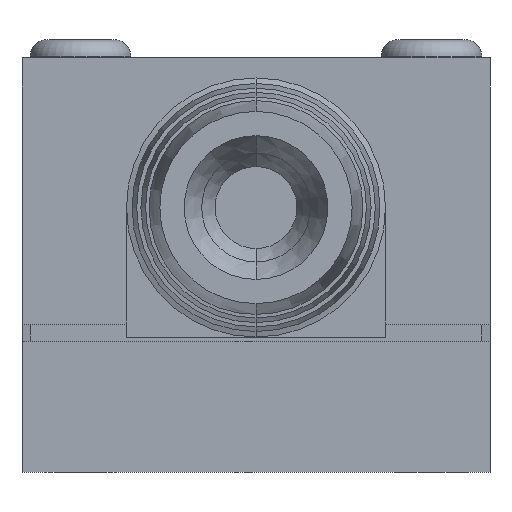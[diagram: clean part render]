
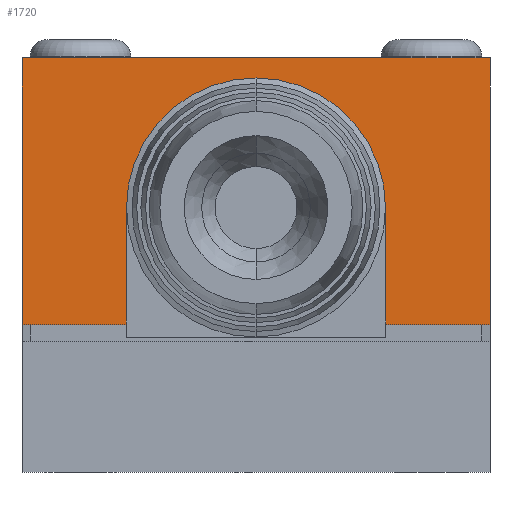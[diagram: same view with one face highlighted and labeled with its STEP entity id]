
A CAD part, front view. The second image highlights one B-rep face of the part: STEP entity #1720.
In plain terms, the highlighted planar face has unit normal (0, -1, 0).
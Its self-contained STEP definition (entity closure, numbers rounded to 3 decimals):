
#565 = AXIS2_PLACEMENT_3D ( 'NONE', #4049, #4050, #4051 ) ;
#858 = ORIENTED_EDGE ( 'NONE', *, *, #1582, .F. ) ;
#1030 = ORIENTED_EDGE ( 'NONE', *, *, #1706, .F. ) ;
#1032 = ORIENTED_EDGE ( 'NONE', *, *, #1707, .T. ) ;
#1033 = ORIENTED_EDGE ( 'NONE', *, *, #1710, .T. ) ;
#1034 = ORIENTED_EDGE ( 'NONE', *, *, #1708, .F. ) ;
#1038 = ORIENTED_EDGE ( 'NONE', *, *, #1709, .T. ) ;
#1047 = VERTEX_POINT ( 'NONE', #3598 ) ;
#1048 = VERTEX_POINT ( 'NONE', #3599 ) ;
#1201 = EDGE_LOOP ( 'NONE', ( #1038, #1033, #1034, #1032 ) ) ;
#1202 = EDGE_LOOP ( 'NONE', ( #1030, #858 ) ) ;
#1582 = EDGE_CURVE ( 'NONE', #1048, #1047, #2111, .T. ) ;
#1706 = EDGE_CURVE ( 'NONE', #1047, #1048, #2167, .T. ) ;
#1707 = EDGE_CURVE ( 'NONE', #3430, #3427, #4425, .T. ) ;
#1708 = EDGE_CURVE ( 'NONE', #3430, #3429, #4428, .T. ) ;
#1709 = EDGE_CURVE ( 'NONE', #3427, #3428, #4431, .T. ) ;
#1710 = EDGE_CURVE ( 'NONE', #3428, #3429, #4434, .T. ) ;
#1720 = ADVANCED_FACE ( 'NONE', ( #2543, #2545 ), #4466, .F. ) ;
#2111 = CIRCLE ( 'NONE', #565, 4.75 ) ;
#2167 = CIRCLE ( 'NONE', #2517, 4.75 ) ;
#2511 = VECTOR ( 'NONE', #4436, 1000. ) ;
#2512 = VECTOR ( 'NONE', #4433, 1000. ) ;
#2513 = VECTOR ( 'NONE', #4430, 1000. ) ;
#2514 = VECTOR ( 'NONE', #4427, 1000. ) ;
#2517 = AXIS2_PLACEMENT_3D ( 'NONE', #4418, #4422, #4423 ) ;
#2538 = AXIS2_PLACEMENT_3D ( 'NONE', #4467, #4468, #4469 ) ;
#2543 = FACE_OUTER_BOUND ( 'NONE', #1201, .T. ) ;
#2545 = FACE_BOUND ( 'NONE', #1202, .T. ) ;
#2772 = CARTESIAN_POINT ( 'NONE',  ( -14., -22.525, 24.8 ) ) ;
#2773 = CARTESIAN_POINT ( 'NONE',  ( -14., -22.525, 8.85 ) ) ;
#2774 = CARTESIAN_POINT ( 'NONE',  ( 14., -22.525, 8.85 ) ) ;
#2775 = CARTESIAN_POINT ( 'NONE',  ( 14., -22.525, 24.8 ) ) ;
#3427 = VERTEX_POINT ( 'NONE', #2772 ) ;
#3428 = VERTEX_POINT ( 'NONE', #2773 ) ;
#3429 = VERTEX_POINT ( 'NONE', #2774 ) ;
#3430 = VERTEX_POINT ( 'NONE', #2775 ) ;
#3598 = CARTESIAN_POINT ( 'NONE',  ( 0., -22.525, 20.6 ) ) ;
#3599 = CARTESIAN_POINT ( 'NONE',  ( 0., -22.525, 11.1 ) ) ;
#4049 = CARTESIAN_POINT ( 'NONE',  ( 0., -22.525, 15.85 ) ) ;
#4050 = DIRECTION ( 'NONE',  ( 0., -1., 0. ) ) ;
#4051 = DIRECTION ( 'NONE',  ( 0., 0., 1. ) ) ;
#4418 = CARTESIAN_POINT ( 'NONE',  ( 0., -22.525, 15.85 ) ) ;
#4422 = DIRECTION ( 'NONE',  ( 0., -1., 0. ) ) ;
#4423 = DIRECTION ( 'NONE',  ( 0., 0., 1. ) ) ;
#4425 = LINE ( 'NONE', #4426, #2514 ) ;
#4426 = CARTESIAN_POINT ( 'NONE',  ( 14., -22.525, 24.8 ) ) ;
#4427 = DIRECTION ( 'NONE',  ( -1., 0., 0. ) ) ;
#4428 = LINE ( 'NONE', #4429, #2513 ) ;
#4429 = CARTESIAN_POINT ( 'NONE',  ( 14., -22.525, 24.8 ) ) ;
#4430 = DIRECTION ( 'NONE',  ( 0., 0., -1. ) ) ;
#4431 = LINE ( 'NONE', #4432, #2512 ) ;
#4432 = CARTESIAN_POINT ( 'NONE',  ( -14., -22.525, 24.8 ) ) ;
#4433 = DIRECTION ( 'NONE',  ( 0., 0., -1. ) ) ;
#4434 = LINE ( 'NONE', #4435, #2511 ) ;
#4435 = CARTESIAN_POINT ( 'NONE',  ( -14., -22.525, 8.85 ) ) ;
#4436 = DIRECTION ( 'NONE',  ( 1., 0., 0. ) ) ;
#4466 = PLANE ( 'NONE',  #2538 ) ;
#4467 = CARTESIAN_POINT ( 'NONE',  ( 14., -22.525, 24.8 ) ) ;
#4468 = DIRECTION ( 'NONE',  ( 0., 1., 0. ) ) ;
#4469 = DIRECTION ( 'NONE',  ( 0., 0., 1. ) ) ;
